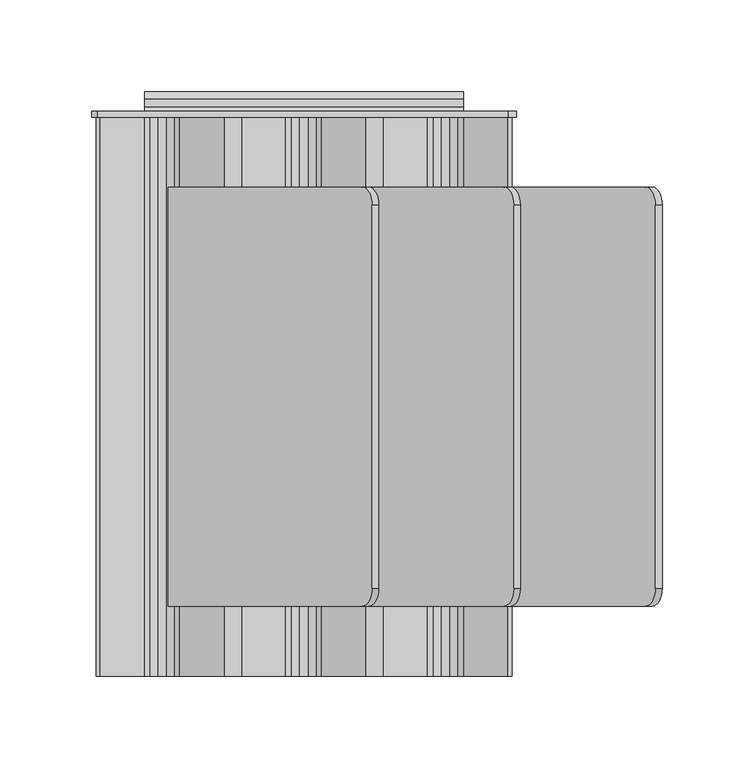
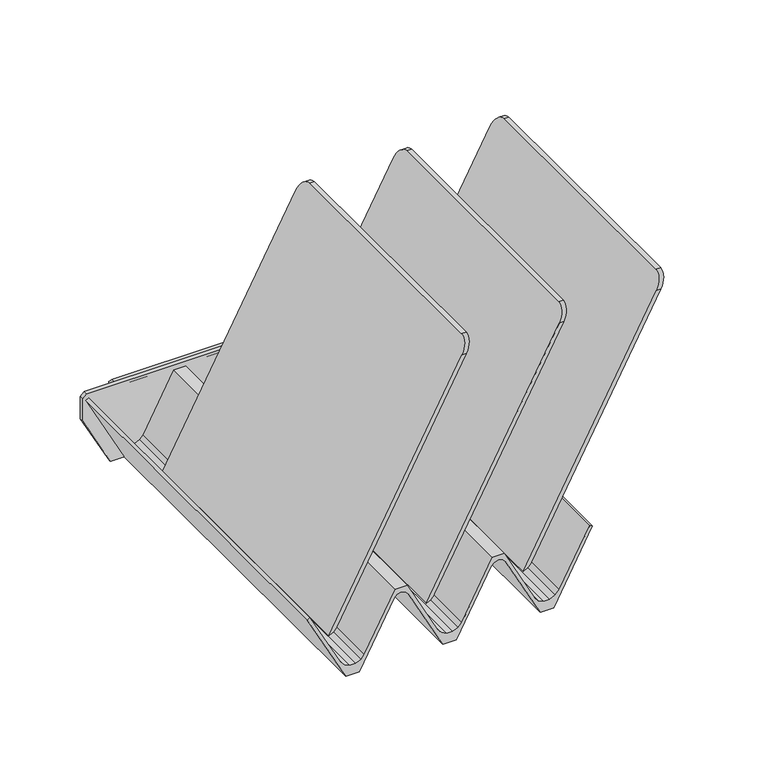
"""IFC4 building model written with IfcOpenShell, lengths in millimetres: furniture geometry."""

from ifc_helpers import new_model, si_unit, point, frame, frame_2d, origin, place, context, project, spatial, polyline, circle_curve, ellipse_curve, trimmed, segment, composite_curve, outline, extrude, source, transform, mapped, element, save
from ifc_brep_helpers import plane_surface, cylinder_surface, advanced_brep


def furniture_aa752300(model_context):
    return source(origin(), model_context, "Body", "SolidModel", [
        advanced_brep(
        [(-78.5076305, -115.8875182, 863.17582), (-74.9117341, -115.8875182, 863.17582), (35.3237269, -115.8875182, 1070.4985634), (31.7278836, -115.8875182, 1070.4985634), (-74.9117341, 112.7124864, 863.17582), (-78.5076305, 112.7124864, 863.17582), (31.7278836, 112.7124864, 1070.4985634), (35.3237269, 112.7124864, 1070.4985634), (40.728424, 102.8883555, 1080.66332), (40.728424, -105.9830355, 1080.66332), (37.1325833, 102.8883555, 1080.66332), (37.1325833, -105.9830355, 1080.66332)],
        [
            (0, 1),
            (1, 2),
            (2, 3),
            (3, 0),
            (4, 5),
            (5, 6),
            (6, 7),
            (7, 4),
            (0, 5),
            (4, 1),
            (7, 8, ellipse_curve(frame((35.3237269, 102.5418246, 1070.4985634), z_axis=(0.8829475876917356, 0.0, -0.4694715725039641), x_axis=(-0.4694715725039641, 0.0, -0.8829475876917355)), 11.518987, 10.1706618)),
            (8, 9),
            (9, 2, ellipse_curve(frame((35.3237269, -105.7193418, 1070.4985634), z_axis=(0.8829475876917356, 0.0, -0.4694715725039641), x_axis=(-0.4694715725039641, 0.0, -0.8829475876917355)), 11.5161721, 10.1681764)),
            (8, 10),
            (10, 11),
            (11, 9),
            (3, 11, ellipse_curve(frame((31.7278836, -105.7193418, 1070.4985634), z_axis=(-0.8829474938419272, 0.0, 0.4694717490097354), x_axis=(-0.46947174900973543, 0.0, -0.8829474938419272)), 11.5161734, 10.1681764)),
            (10, 6, ellipse_curve(frame((31.7278836, 102.5418246, 1070.4985634), z_axis=(-0.8829474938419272, 0.0, 0.4694717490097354), x_axis=(-0.46947174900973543, 0.0, -0.8829474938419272)), 11.5189882, 10.1706618)),
        ],
        [
            plane_surface(frame((-78.5076305, -115.8875182, 863.17582), z_axis=(0.0, -1.0, 0.0), x_axis=(1.0, 0.0, 0.0))),
            plane_surface(frame((-78.5076305, 112.7124864, 863.17582), z_axis=(0.0, 1.0, 0.0), x_axis=(-1.0, 0.0, 0.0))),
            plane_surface(frame((-78.5076305, -115.8875182, 863.17582), z_axis=(0.0, 0.0, -1.0), x_axis=(0.0, 1.0, 0.0))),
            plane_surface(frame((-74.9117341, -115.8875182, 863.17582), z_axis=(0.8829475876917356, 0.0, -0.4694715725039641), x_axis=(0.0, 1.0, 0.0))),
            plane_surface(frame((40.728424, -115.8875182, 1080.66332), z_axis=(0.0, 0.0, 1.0), x_axis=(0.0, 1.0, 0.0))),
            plane_surface(frame((37.1325833, -115.8875182, 1080.66332), z_axis=(-0.8829474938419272, 0.0, 0.4694717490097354), x_axis=(0.0, 1.0, 0.0))),
            cylinder_surface(frame((0.0, 102.5418246, 1070.4985634), z_axis=(-1.0, 0.0, 0.0), x_axis=(0.0, 1.0, 0.0)), 10.1706618),
            cylinder_surface(frame((0.0, -105.7193418, 1070.4985634), z_axis=(-1.0, 0.0, 0.0), x_axis=(0.0, 1.0, 0.0)), 10.1681764),
        ],
        [
            (0, [[1, 2, 3, 4]]),
            (1, [[5, 6, 7, 8]]),
            (2, [[-1, 9, -5, 10]]),
            (3, [[-10, -8, 11, 12, 13, -2]]),
            (4, [[-12, 14, 15, 16]]),
            (5, [[-9, -4, 17, -15, 18, -6]]),
            (6, [[-7, -18, -14, -11]]),
            (7, [[-3, -13, -16, -17]]),
        ],
    ),
        advanced_brep(
        [(-0.9107932, -115.8875182, 863.17582), (2.3550823, -115.8875182, 863.17582), (112.5905464, -115.8875182, 1070.4985634), (109.0097063, -115.8875182, 1070.4985634), (2.3550823, 112.7124864, 863.17582), (-0.9107932, 112.7124864, 863.17582), (109.0097063, 112.7124864, 1070.4985634), (112.5905464, 112.7124864, 1070.4985634), (117.9952436, 102.8883555, 1080.66332), (117.9952436, -105.9830355, 1080.66332), (114.3989613, 102.8883555, 1080.66332), (114.3989613, -105.9830355, 1080.66332)],
        [
            (0, 1),
            (1, 2),
            (2, 3),
            (3, 0),
            (4, 5),
            (5, 6),
            (6, 7),
            (7, 4),
            (0, 5),
            (4, 1),
            (7, 8, ellipse_curve(frame((112.5905464, 102.5418246, 1070.4985634), z_axis=(0.882947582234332, 0.0, -0.46947158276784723), x_axis=(-0.4694715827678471, 0.0, -0.882947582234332)), 11.518987, 10.1706618)),
            (8, 9),
            (9, 2, ellipse_curve(frame((112.5905464, -105.7193418, 1070.4985634), z_axis=(0.882947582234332, 0.0, -0.46947158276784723), x_axis=(-0.4694715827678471, 0.0, -0.882947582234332)), 11.5161722, 10.1681764)),
            (8, 10),
            (10, 11),
            (11, 9),
            (3, 11, ellipse_curve(frame((109.0097063, -105.7193418, 1070.4985634), z_axis=(-0.88350333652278, 0.0, 0.4684248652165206), x_axis=(-0.46842486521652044, 0.0, -0.8835033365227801)), 11.5089281, 10.1681764)),
            (10, 6, ellipse_curve(frame((109.0097063, 102.5418246, 1070.4985634), z_axis=(-0.88350333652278, 0.0, 0.4684248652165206), x_axis=(-0.46842486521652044, 0.0, -0.8835033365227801)), 11.5117412, 10.1706618)),
        ],
        [
            plane_surface(frame((-78.5076305, -115.8875182, 863.17582), z_axis=(0.0, -1.0, 0.0), x_axis=(1.0, 0.0, 0.0))),
            plane_surface(frame((-78.5076305, 112.7124864, 863.17582), z_axis=(0.0, 1.0, 0.0), x_axis=(-1.0, 0.0, 0.0))),
            plane_surface(frame((-0.9107932, -115.8875182, 863.17582), z_axis=(0.0, 0.0, -1.0), x_axis=(0.0, 1.0, 0.0))),
            plane_surface(frame((2.3550823, -115.8875182, 863.17582), z_axis=(0.882947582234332, 0.0, -0.46947158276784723), x_axis=(0.0, 1.0, 0.0))),
            plane_surface(frame((117.9952436, -115.8875182, 1080.66332), z_axis=(0.0, 0.0, 1.0), x_axis=(0.0, 1.0, 0.0))),
            plane_surface(frame((114.3989613, -115.8875182, 1080.66332), z_axis=(-0.88350333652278, 0.0, 0.4684248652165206), x_axis=(0.0, 1.0, 0.0))),
            cylinder_surface(frame((0.0, 102.5418246, 1070.4985634), z_axis=(-1.0, 0.0, 0.0), x_axis=(0.0, 1.0, 0.0)), 10.1706618),
            cylinder_surface(frame((0.0, -105.7193418, 1070.4985634), z_axis=(-1.0, 0.0, 0.0), x_axis=(0.0, 1.0, 0.0)), 10.1681764),
        ],
        [
            (0, [[1, 2, 3, 4]]),
            (1, [[5, 6, 7, 8]]),
            (2, [[-1, 9, -5, 10]]),
            (3, [[-10, -8, 11, 12, 13, -2]]),
            (4, [[-12, 14, 15, 16]]),
            (5, [[-9, -4, 17, -15, 18, -6]]),
            (6, [[-7, -18, -14, -11]]),
            (7, [[-3, -13, -16, -17]]),
        ],
    ),
        advanced_brep(
        [(76.0259689, -115.8875182, 863.17582), (79.7811739, -115.8875182, 863.17582), (190.0166176, -115.8875182, 1070.4985634), (186.2614289, -115.8875182, 1070.4985634), (79.7811739, 112.7124864, 863.17582), (76.0259689, 112.7124864, 863.17582), (186.2614289, 112.7124864, 1070.4985634), (190.0166176, 112.7124864, 1070.4985634), (195.4213139, 102.8883555, 1080.66332), (195.4213139, -105.9830355, 1080.66332), (191.666126, 102.8883555, 1080.66332), (191.666126, -105.9830355, 1080.66332)],
        [
            (0, 1),
            (1, 2),
            (2, 3),
            (3, 0),
            (4, 5),
            (5, 6),
            (6, 7),
            (7, 4),
            (0, 5),
            (4, 1),
            (7, 8, ellipse_curve(frame((190.0166176, 102.5418246, 1070.4985634), z_axis=(0.8829476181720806, 0.0, -0.46947151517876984), x_axis=(-0.46947151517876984, 0.0, -0.8829476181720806)), 11.5189866, 10.1706618)),
            (8, 9),
            (9, 2, ellipse_curve(frame((190.0166176, -105.7193418, 1070.4985634), z_axis=(0.8829476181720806, 0.0, -0.46947151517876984), x_axis=(-0.46947151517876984, 0.0, -0.8829476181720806)), 11.5161717, 10.1681764)),
            (8, 10),
            (10, 11),
            (11, 9),
            (3, 11, ellipse_curve(frame((186.2614289, -105.7193418, 1070.4985634), z_axis=(-0.8829475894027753, 0.0, 0.46947156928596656), x_axis=(-0.4694715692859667, 0.0, -0.8829475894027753)), 11.5161721, 10.1681764)),
            (10, 6, ellipse_curve(frame((186.2614289, 102.5418246, 1070.4985634), z_axis=(-0.8829475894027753, 0.0, 0.46947156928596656), x_axis=(-0.4694715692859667, 0.0, -0.8829475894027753)), 11.5189869, 10.1706618)),
        ],
        [
            plane_surface(frame((-78.5076305, -115.8875182, 863.17582), z_axis=(0.0, -1.0, 0.0), x_axis=(1.0, 0.0, 0.0))),
            plane_surface(frame((-78.5076305, 112.7124864, 863.17582), z_axis=(0.0, 1.0, 0.0), x_axis=(-1.0, 0.0, 0.0))),
            plane_surface(frame((76.0259689, -115.8875182, 863.17582), z_axis=(0.0, 0.0, -1.0), x_axis=(0.0, 1.0, 0.0))),
            plane_surface(frame((79.7811739, -115.8875182, 863.17582), z_axis=(0.8829476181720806, 0.0, -0.46947151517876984), x_axis=(0.0, 1.0, 0.0))),
            plane_surface(frame((195.4213139, -115.8875182, 1080.66332), z_axis=(0.0, 0.0, 1.0), x_axis=(0.0, 1.0, 0.0))),
            plane_surface(frame((191.666126, -115.8875182, 1080.66332), z_axis=(-0.8829475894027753, 0.0, 0.46947156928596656), x_axis=(0.0, 1.0, 0.0))),
            cylinder_surface(frame((0.0, 102.5418246, 1070.4985634), z_axis=(-1.0, 0.0, 0.0), x_axis=(0.0, 1.0, 0.0)), 10.1706618),
            cylinder_surface(frame((0.0, -105.7193418, 1070.4985634), z_axis=(-1.0, 0.0, 0.0), x_axis=(0.0, 1.0, 0.0)), 10.1681764),
        ],
        [
            (0, [[1, 2, 3, 4]]),
            (1, [[5, 6, 7, 8]]),
            (2, [[-1, 9, -5, 10]]),
            (3, [[-10, -8, 11, 12, 13, -2]]),
            (4, [[-12, 14, 15, 16]]),
            (5, [[-9, -4, 17, -15, 18, -6]]),
            (6, [[-7, -18, -14, -11]]),
            (7, [[-3, -13, -16, -17]]),
        ],
    ),
        extrude(outline(polyline([(921.3623704, -113.3404132), (863.17582, -82.6180755), (863.17582, -71.8286766), (915.6998823, -44.096121), (917.9664631, -41.9545616), (918.8781962, -38.676187), (917.9664631, -35.3978079), (915.4930771, -33.0608503), (863.17582, -5.4374818), (863.17582, 5.4381185), (915.6998814, 33.170679), (917.9664631, 35.3122394), (918.8781962, 38.5906094), (917.9664631, 41.8689885), (915.4372559, 44.2586883), (863.17582, 71.9155202), (863.17582, 82.7049229), (921.362366, 113.4272483), (922.4786632, 111.3130508), (877.0313296, 87.1482781), (873.3759741, 84.0519156), (871.3615304, 79.7054876), (871.3615304, 74.9149551), (873.3759741, 70.5685271), (877.1363561, 67.3831993), (922.5483184, 43.2968127), (922.5483184, 33.9240014), (876.5262475, 9.4536309), (873.3759741, 6.7851111), (871.3615304, 2.4386922), (871.3615304, -2.3518493), (873.8112946, -6.6982682), (877.3707821, -9.9738698), (922.5483184, -33.8274808), (922.5483184, -43.3428158), (876.5261947, -67.8132137), (873.3759741, -70.4816887), (871.3615304, -74.8281031), (871.3615304, -79.6186492), (873.3759741, -83.9650636), (877.0313462, -87.0614424), (922.548323, -111.0942793), (921.3623704, -113.3404132)])), frame((0.0, -153.9875, 0.0), z_axis=(0.0, 1.0, 0.0), x_axis=(0.0, 0.0, 1.0)), (0.0, 0.0, 1.0), 304.7999878),
        extrude(outline(polyline([(923.5008194, -115.844077), (904.8657807, -115.844077), (863.17582, -93.8318941), (863.17582, 93.918737), (904.8657807, 115.930929), (923.5008184, 115.930929), (926.6758185, 111.5932577), (926.6758185, -112.669078), (923.5008194, -115.844077)])), frame((0.0, 150.8124878, 0.0), z_axis=(0.0, 1.0, 0.0), x_axis=(0.0, 0.0, 1.0)), (0.0, 0.0, 1.0), 3.1750122),
        extrude(outline(composite_curve([segment(polyline([(164.6784774, 919.6870314), (164.6784774, 917.1092805)]), True, "CONTINUOUS"), segment(trimmed(circle_curve(frame_2d((162.7734784, 917.1092805)), 1.904999), [point((164.6784774, 917.1092805))], [point((160.8684793, 917.1092805))], False, "CARTESIAN"), True, "CONTINUOUS"), segment(polyline([(160.8684793, 917.1092805), (160.8684793, 919.6870314), (156.5435882, 919.6870314), (153.9875, 917.1309432), (153.9875, 926.6758185), (156.5435882, 923.4970313), (160.8684775, 923.4970313), (164.6784774, 919.6870314)]), True, "CONTINUOUS")], self_intersect=False)), frame((-87.0345642, 0.0, 0.0), z_axis=(1.0, 0.0, 0.0), x_axis=(0.0, 1.0, 0.0)), (0.0, 0.0, 1.0), 174.0691284),
    ])


if __name__ == "__main__":
    model = new_model("IFC4")
    model_context = context("Model", 3, world=origin())
    ifc_project = project(units=[si_unit("LENGTHUNIT", "METRE", prefix="MILLI")], contexts=[model_context])
    site = spatial("IfcSite", under=ifc_project)
    building = spatial("IfcBuilding", under=site)
    placement = place(None, origin())
    furniture_shape = furniture_aa752300(model_context)
    element("IfcFurniture", 1, ObjectType="HermanMiller_ThrivePortfolio_Y7218_DiagonalTray : 8 1/2\"H x 12\"D x 13\"W", at=placement, inside=building, context=model_context, shape_type="MappedRepresentation", body=[
        mapped(furniture_shape, transform((0.0, 0.0, 0.0), x_axis=(1.0, 0.0, 0.0), y_axis=(0.0, 1.0, 0.0), z_axis=(0.0, 0.0, 1.0))),
    ])
    save(model, "model.ifc")
